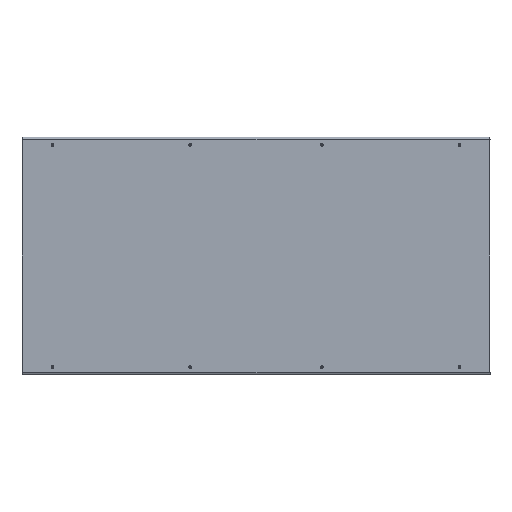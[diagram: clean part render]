
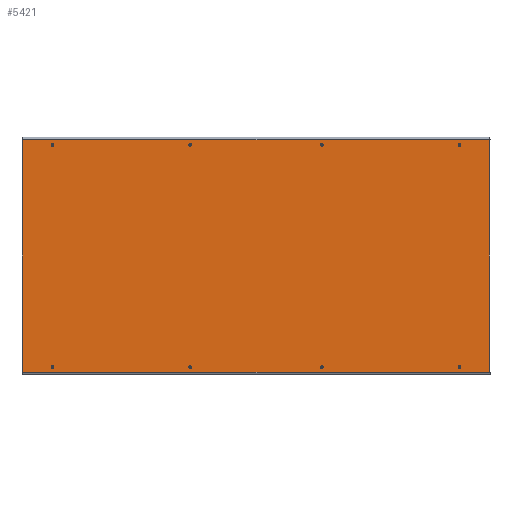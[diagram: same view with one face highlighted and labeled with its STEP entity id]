
A CAD part, front view. The second image highlights one B-rep face of the part: STEP entity #5421.
In plain terms, the highlighted planar face has unit normal (0, -1, 0).
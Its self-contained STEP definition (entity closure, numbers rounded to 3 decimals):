
#3496=CARTESIAN_POINT(' ',(275.,-1.5,-470.5));
#3497=VERTEX_POINT(' ',#3496);
#3511=CARTESIAN_POINT(' ',(275.,-1.5,-464.5));
#3516=DIRECTION(' ',(0.,-1.,0.));
#3521=DIRECTION(' ',(0.,0.,-1.));
#3526=AXIS2_PLACEMENT_3D(' ',#3511,#3516,#3521);
#3531=CIRCLE('',#3526,6.);
#3536=CARTESIAN_POINT(' ',(275.,-1.5,-458.5));
#3537=VERTEX_POINT(' ',#3536);
#3541=EDGE_CURVE(' ',#3497,#3537,#3531,.T.);
#4546=CARTESIAN_POINT(' ',(275.,-1.5,-464.5));
#4551=DIRECTION(' ',(0.,-1.,0.));
#4556=DIRECTION(' ',(0.,0.,1.));
#4561=AXIS2_PLACEMENT_3D(' ',#4546,#4551,#4556);
#4566=CIRCLE('',#4561,6.);
#4571=EDGE_CURVE(' ',#3537,#3497,#4566,.T.);
#4596=DIRECTION(' ',(-0.,-1.,-0.));
#4601=CARTESIAN_POINT(' ',(-975.25,-1.5,-486.5));
#4606=DIRECTION(' ',(1.,0.,-0.));
#4611=AXIS2_PLACEMENT_3D(' ',#4601,#4596,#4606);
#4616=PLANE('NONE',#4611);
#4621=CARTESIAN_POINT(' ',(975.25,-1.5,-486.5));
#4626=DIRECTION(' ',(0.,0.,1.));
#4631=VECTOR(' ',#4626,1.);
#4636=LINE('',#4621,#4631);
#4641=CARTESIAN_POINT(' ',(975.25,-1.5,-486.5));
#4642=VERTEX_POINT(' ',#4641);
#4646=CARTESIAN_POINT(' ',(975.25,-1.5,486.5));
#4647=VERTEX_POINT(' ',#4646);
#4651=EDGE_CURVE(' ',#4642,#4647,#4636,.T.);
#4656=ORIENTED_EDGE(' ',*,*,#4651,.T.);
#4661=CARTESIAN_POINT(' ',(975.25,-1.5,486.5));
#4666=DIRECTION(' ',(-1.,0.,0.));
#4671=VECTOR(' ',#4666,1.);
#4676=LINE('',#4661,#4671);
#4681=CARTESIAN_POINT(' ',(-975.25,-1.5,486.5));
#4682=VERTEX_POINT(' ',#4681);
#4686=EDGE_CURVE(' ',#4647,#4682,#4676,.T.);
#4691=ORIENTED_EDGE(' ',*,*,#4686,.T.);
#4696=CARTESIAN_POINT(' ',(-975.25,-1.5,486.5));
#4701=DIRECTION(' ',(0.,0.,-1.));
#4706=VECTOR(' ',#4701,1.);
#4711=LINE('',#4696,#4706);
#4716=CARTESIAN_POINT(' ',(-975.25,-1.5,-486.5));
#4717=VERTEX_POINT(' ',#4716);
#4721=EDGE_CURVE(' ',#4682,#4717,#4711,.T.);
#4726=ORIENTED_EDGE(' ',*,*,#4721,.T.);
#4731=CARTESIAN_POINT(' ',(-975.25,-1.5,-486.5));
#4736=DIRECTION(' ',(1.,0.,0.));
#4741=VECTOR(' ',#4736,1.);
#4746=LINE('',#4731,#4741);
#4751=EDGE_CURVE(' ',#4717,#4642,#4746,.T.);
#4756=ORIENTED_EDGE(' ',*,*,#4751,.T.);
#4761=EDGE_LOOP(' ',(#4656,#4691,#4726,#4756));
#4766=FACE_OUTER_BOUND(' ',#4761,.T.);
#4771=ORIENTED_EDGE(' ',*,*,#4571,.F.);
#4776=ORIENTED_EDGE(' ',*,*,#3541,.F.);
#4781=EDGE_LOOP(' ',(#4771,#4776));
#4786=FACE_BOUND(' ',#4781,.T.);
#4791=CARTESIAN_POINT(' ',(850.,-1.5,-464.5));
#4796=DIRECTION(' ',(0.,-1.,0.));
#4801=DIRECTION(' ',(0.,0.,1.));
#4806=AXIS2_PLACEMENT_3D(' ',#4791,#4796,#4801);
#4811=CIRCLE('',#4806,6.);
#4816=CARTESIAN_POINT(' ',(850.,-1.5,-458.5));
#4817=VERTEX_POINT(' ',#4816);
#4821=CARTESIAN_POINT(' ',(850.,-1.5,-470.5));
#4822=VERTEX_POINT(' ',#4821);
#4826=EDGE_CURVE(' ',#4817,#4822,#4811,.T.);
#4831=ORIENTED_EDGE(' ',*,*,#4826,.F.);
#4836=CARTESIAN_POINT(' ',(850.,-1.5,-464.5));
#4841=DIRECTION(' ',(0.,-1.,0.));
#4846=DIRECTION(' ',(0.,0.,-1.));
#4851=AXIS2_PLACEMENT_3D(' ',#4836,#4841,#4846);
#4856=CIRCLE('',#4851,6.);
#4861=EDGE_CURVE(' ',#4822,#4817,#4856,.T.);
#4866=ORIENTED_EDGE(' ',*,*,#4861,.F.);
#4871=EDGE_LOOP(' ',(#4831,#4866));
#4876=FACE_BOUND(' ',#4871,.T.);
#4881=CARTESIAN_POINT(' ',(850.,-1.5,464.5));
#4886=DIRECTION(' ',(0.,1.,0.));
#4891=DIRECTION(' ',(0.,0.,-1.));
#4896=AXIS2_PLACEMENT_3D(' ',#4881,#4886,#4891);
#4901=CIRCLE('',#4896,6.);
#4906=CARTESIAN_POINT(' ',(850.,-1.5,458.5));
#4907=VERTEX_POINT(' ',#4906);
#4911=CARTESIAN_POINT(' ',(850.,-1.5,470.5));
#4912=VERTEX_POINT(' ',#4911);
#4916=EDGE_CURVE(' ',#4907,#4912,#4901,.T.);
#4921=ORIENTED_EDGE(' ',*,*,#4916,.T.);
#4926=CARTESIAN_POINT(' ',(850.,-1.5,464.5));
#4931=DIRECTION(' ',(0.,1.,0.));
#4936=DIRECTION(' ',(0.,0.,1.));
#4941=AXIS2_PLACEMENT_3D(' ',#4926,#4931,#4936);
#4946=CIRCLE('',#4941,6.);
#4951=EDGE_CURVE(' ',#4912,#4907,#4946,.T.);
#4956=ORIENTED_EDGE(' ',*,*,#4951,.T.);
#4961=EDGE_LOOP(' ',(#4921,#4956));
#4966=FACE_BOUND(' ',#4961,.T.);
#4971=CARTESIAN_POINT(' ',(-275.,-1.5,464.5));
#4976=DIRECTION(' ',(0.,-1.,0.));
#4981=DIRECTION(' ',(0.,0.,-1.));
#4986=AXIS2_PLACEMENT_3D(' ',#4971,#4976,#4981);
#4991=CIRCLE('',#4986,6.);
#4996=CARTESIAN_POINT(' ',(-275.,-1.5,458.5));
#4997=VERTEX_POINT(' ',#4996);
#5001=CARTESIAN_POINT(' ',(-275.,-1.5,470.5));
#5002=VERTEX_POINT(' ',#5001);
#5006=EDGE_CURVE(' ',#4997,#5002,#4991,.T.);
#5011=ORIENTED_EDGE(' ',*,*,#5006,.F.);
#5016=CARTESIAN_POINT(' ',(-275.,-1.5,464.5));
#5021=DIRECTION(' ',(0.,-1.,0.));
#5026=DIRECTION(' ',(0.,0.,1.));
#5031=AXIS2_PLACEMENT_3D(' ',#5016,#5021,#5026);
#5036=CIRCLE('',#5031,6.);
#5041=EDGE_CURVE(' ',#5002,#4997,#5036,.T.);
#5046=ORIENTED_EDGE(' ',*,*,#5041,.F.);
#5051=EDGE_LOOP(' ',(#5011,#5046));
#5056=FACE_BOUND(' ',#5051,.T.);
#5061=CARTESIAN_POINT(' ',(-850.,-1.5,464.5));
#5066=DIRECTION(' ',(0.,-1.,0.));
#5071=DIRECTION(' ',(0.,0.,-1.));
#5076=AXIS2_PLACEMENT_3D(' ',#5061,#5066,#5071);
#5081=CIRCLE('',#5076,6.);
#5086=CARTESIAN_POINT(' ',(-850.,-1.5,458.5));
#5087=VERTEX_POINT(' ',#5086);
#5091=CARTESIAN_POINT(' ',(-850.,-1.5,470.5));
#5092=VERTEX_POINT(' ',#5091);
#5096=EDGE_CURVE(' ',#5087,#5092,#5081,.T.);
#5101=ORIENTED_EDGE(' ',*,*,#5096,.F.);
#5106=CARTESIAN_POINT(' ',(-850.,-1.5,464.5));
#5111=DIRECTION(' ',(0.,-1.,0.));
#5116=DIRECTION(' ',(0.,0.,1.));
#5121=AXIS2_PLACEMENT_3D(' ',#5106,#5111,#5116);
#5126=CIRCLE('',#5121,6.);
#5131=EDGE_CURVE(' ',#5092,#5087,#5126,.T.);
#5136=ORIENTED_EDGE(' ',*,*,#5131,.F.);
#5141=EDGE_LOOP(' ',(#5101,#5136));
#5146=FACE_BOUND(' ',#5141,.T.);
#5151=CARTESIAN_POINT(' ',(-850.,-1.5,-464.5));
#5156=DIRECTION(' ',(0.,1.,0.));
#5161=DIRECTION(' ',(0.,0.,1.));
#5166=AXIS2_PLACEMENT_3D(' ',#5151,#5156,#5161);
#5171=CIRCLE('',#5166,6.);
#5176=CARTESIAN_POINT(' ',(-850.,-1.5,-458.5));
#5177=VERTEX_POINT(' ',#5176);
#5181=CARTESIAN_POINT(' ',(-850.,-1.5,-470.5));
#5182=VERTEX_POINT(' ',#5181);
#5186=EDGE_CURVE(' ',#5177,#5182,#5171,.T.);
#5191=ORIENTED_EDGE(' ',*,*,#5186,.T.);
#5196=CARTESIAN_POINT(' ',(-850.,-1.5,-464.5));
#5201=DIRECTION(' ',(0.,1.,0.));
#5206=DIRECTION(' ',(0.,0.,-1.));
#5211=AXIS2_PLACEMENT_3D(' ',#5196,#5201,#5206);
#5216=CIRCLE('',#5211,6.);
#5221=EDGE_CURVE(' ',#5182,#5177,#5216,.T.);
#5226=ORIENTED_EDGE(' ',*,*,#5221,.T.);
#5231=EDGE_LOOP(' ',(#5191,#5226));
#5236=FACE_BOUND(' ',#5231,.T.);
#5241=CARTESIAN_POINT(' ',(275.,-1.5,464.5));
#5246=DIRECTION(' ',(0.,1.,0.));
#5251=DIRECTION(' ',(0.,0.,-1.));
#5256=AXIS2_PLACEMENT_3D(' ',#5241,#5246,#5251);
#5261=CIRCLE('',#5256,6.);
#5266=CARTESIAN_POINT(' ',(275.,-1.5,458.5));
#5267=VERTEX_POINT(' ',#5266);
#5271=CARTESIAN_POINT(' ',(275.,-1.5,470.5));
#5272=VERTEX_POINT(' ',#5271);
#5276=EDGE_CURVE(' ',#5267,#5272,#5261,.T.);
#5281=ORIENTED_EDGE(' ',*,*,#5276,.T.);
#5286=CARTESIAN_POINT(' ',(275.,-1.5,464.5));
#5291=DIRECTION(' ',(0.,1.,0.));
#5296=DIRECTION(' ',(0.,0.,1.));
#5301=AXIS2_PLACEMENT_3D(' ',#5286,#5291,#5296);
#5306=CIRCLE('',#5301,6.);
#5311=EDGE_CURVE(' ',#5272,#5267,#5306,.T.);
#5316=ORIENTED_EDGE(' ',*,*,#5311,.T.);
#5321=EDGE_LOOP(' ',(#5281,#5316));
#5326=FACE_BOUND(' ',#5321,.T.);
#5331=CARTESIAN_POINT(' ',(-275.,-1.5,-464.5));
#5336=DIRECTION(' ',(0.,1.,0.));
#5341=DIRECTION(' ',(0.,0.,1.));
#5346=AXIS2_PLACEMENT_3D(' ',#5331,#5336,#5341);
#5351=CIRCLE('',#5346,6.);
#5356=CARTESIAN_POINT(' ',(-275.,-1.5,-458.5));
#5357=VERTEX_POINT(' ',#5356);
#5361=CARTESIAN_POINT(' ',(-275.,-1.5,-470.5));
#5362=VERTEX_POINT(' ',#5361);
#5366=EDGE_CURVE(' ',#5357,#5362,#5351,.T.);
#5371=ORIENTED_EDGE(' ',*,*,#5366,.T.);
#5376=CARTESIAN_POINT(' ',(-275.,-1.5,-464.5));
#5381=DIRECTION(' ',(0.,1.,0.));
#5386=DIRECTION(' ',(0.,0.,-1.));
#5391=AXIS2_PLACEMENT_3D(' ',#5376,#5381,#5386);
#5396=CIRCLE('',#5391,6.);
#5401=EDGE_CURVE(' ',#5362,#5357,#5396,.T.);
#5406=ORIENTED_EDGE(' ',*,*,#5401,.T.);
#5411=EDGE_LOOP(' ',(#5371,#5406));
#5416=FACE_BOUND(' ',#5411,.T.);
#5421=ADVANCED_FACE('NONE',(#4766,#4786,#4876,#4966,#5056,#5146,#5236,#5326,#5416),#4616,.T.);
